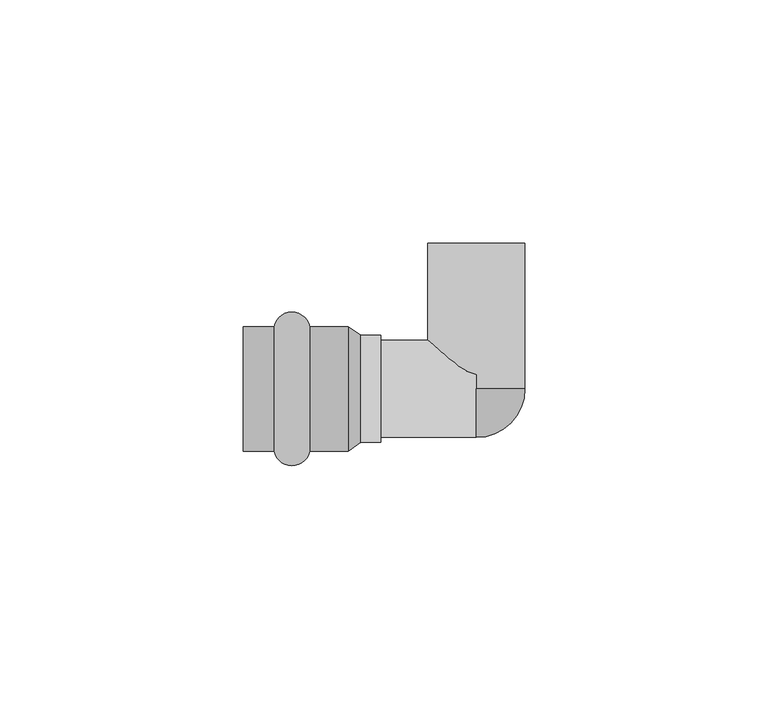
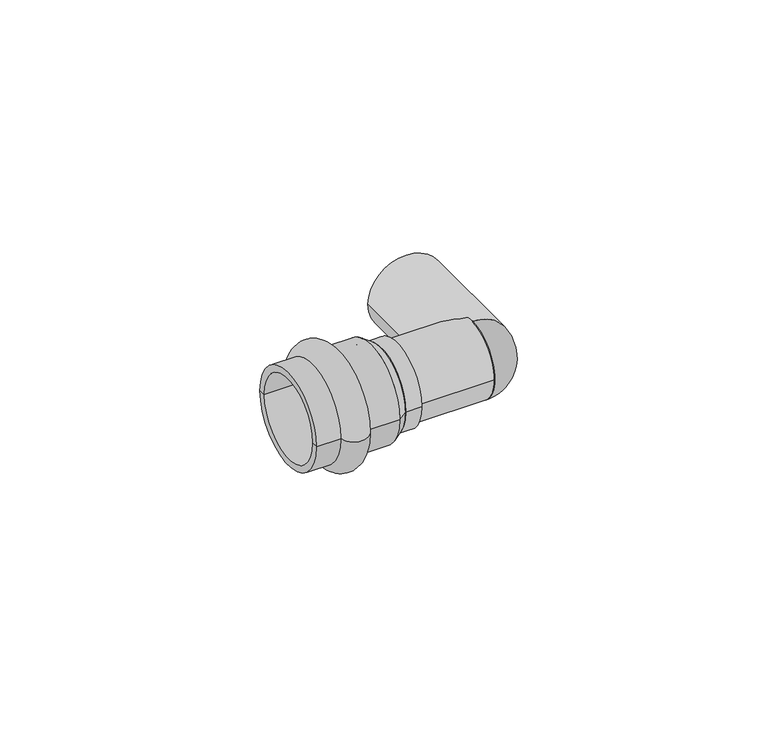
"""IFC4 building model written with IfcOpenShell, lengths in millimetres: pipe fitting geometry, VALTEC_VTi.952.I_Угольник с переходом на внутреннюю резьбу нержавеющая сталь : VTi.952.I."""

from ifc_helpers import new_model, si_unit, point, frame, origin, origin_2d, place, context, project, spatial, polyline, circle_curve, ellipse_curve, trimmed, segment, composite_curve, outline, extrude, source, transform, mapped, element, save
from ifc_brep_helpers import plane_surface, cylinder_surface, revolved_surface, advanced_brep


def pipe_fitting_2329c515(model_context):
    return source(origin(), model_context, "Body", "SolidModel", [
        advanced_brep(
        [(-41.6242346, -12.8, 0.0), (-41.6242346, 12.8, 0.0), (-34.2757654, 12.8, 0.0), (-34.2757654, -12.8, 0.0), (-48.0, -12.8, 0.0), (-48.0, 12.8, 0.0), (-48.0, -11.0, 0.0), (-48.0, 11.0, 0.0), (-26.4, -11.0, 0.0), (-26.4, 11.0, 0.0), (-26.4, -12.8, 0.0), (-26.4, 12.8, 0.0)],
        [
            (0, 1, circle_curve(frame((-41.6242346, 0.0, 0.0), z_axis=(1.0, 0.0, 0.0), x_axis=(0.0, 1.0, 0.0)), 12.8)),
            (1, 2, circle_curve(frame((-37.95, 12.05, 0.0), z_axis=(0.0, 0.0, -1.0), x_axis=(1.0, 0.0, 0.0)), 3.75)),
            (2, 3, circle_curve(frame((-34.2757654, 0.0, 0.0), z_axis=(-1.0, 0.0, 0.0), x_axis=(0.0, 1.0, 0.0)), 12.8)),
            (3, 0, circle_curve(frame((-37.95, -12.05, 0.0), z_axis=(0.0, 0.0, -1.0), x_axis=(1.0, 0.0, 0.0)), 3.75)),
            (1, 0, circle_curve(frame((-41.6242346, 0.0, 0.0), z_axis=(1.0, 0.0, 0.0), x_axis=(0.0, 1.0, 0.0)), 12.8)),
            (3, 2, circle_curve(frame((-34.2757654, 0.0, 0.0), z_axis=(-1.0, 0.0, 0.0), x_axis=(0.0, 1.0, 0.0)), 12.8)),
            (4, 5, circle_curve(frame((-48.0, 0.0, 0.0), z_axis=(1.0, 0.0, 0.0), x_axis=(0.0, 1.0, 0.0)), 12.8)),
            (5, 1),
            (0, 4),
            (5, 4, circle_curve(frame((-48.0, 0.0, 0.0), z_axis=(1.0, 0.0, 0.0), x_axis=(0.0, 1.0, 0.0)), 12.8)),
            (6, 7, circle_curve(frame((-48.0, 0.0, 0.0), z_axis=(1.0, 0.0, 0.0), x_axis=(0.0, 1.0, 0.0)), 11.0)),
            (7, 5),
            (4, 6),
            (7, 6, circle_curve(frame((-48.0, 0.0, 0.0), z_axis=(1.0, 0.0, 0.0), x_axis=(0.0, 1.0, 0.0)), 11.0)),
            (8, 9, circle_curve(frame((-26.4, 0.0, 0.0), z_axis=(1.0, 0.0, 0.0), x_axis=(0.0, 1.0, 0.0)), 11.0)),
            (9, 7),
            (6, 8),
            (9, 8, circle_curve(frame((-26.4, 0.0, 0.0), z_axis=(1.0, 0.0, 0.0), x_axis=(0.0, 1.0, 0.0)), 11.0)),
            (10, 11, circle_curve(frame((-26.4, 0.0, 0.0), z_axis=(1.0, 0.0, 0.0), x_axis=(0.0, 1.0, 0.0)), 12.8)),
            (11, 9),
            (8, 10),
            (11, 10, circle_curve(frame((-26.4, 0.0, 0.0), z_axis=(1.0, 0.0, 0.0), x_axis=(0.0, 1.0, 0.0)), 12.8)),
            (2, 11),
            (10, 3),
        ],
        [
            revolved_surface(trimmed(ellipse_curve(frame((-37.95, 12.05, 0.0), z_axis=(0.0, 0.0, 1.0), x_axis=(1.0, 0.0, 0.0)), 3.75, 3.75), [point((-34.2757654, 12.8, 0.0))], [point((-41.6242346, 12.8, 0.0))], True, "CARTESIAN"), (-51.5364426, 0.0, 0.0), (-1.0, 0.0, 0.0)),
            cylinder_surface(frame((-51.5364426, 0.0, 0.0), z_axis=(-1.0, 0.0, 0.0), x_axis=(0.0, 1.0, 0.0)), 12.8),
            plane_surface(frame((-48.0, 0.0, 0.0), z_axis=(-1.0, 0.0, 0.0), x_axis=(0.0, 1.0, 0.0))),
            revolved_surface(polyline([(-48.0, 11.0, 0.0), (-26.4, 11.0, 0.0)]), (-51.5364426, 0.0, 0.0), (-1.0, 0.0, 0.0)),
            plane_surface(frame((-26.4, 0.0, 0.0), z_axis=(1.0, 0.0, 0.0), x_axis=(0.0, 1.0, 0.0))),
        ],
        [
            (0, [[1, 2, 3, 4]]),
            (0, [[5, -4, 6, -2]]),
            (1, [[7, 8, -1, 9]]),
            (1, [[10, -9, -5, -8]]),
            (2, [[11, 12, -7, 13]]),
            (2, [[14, -13, -10, -12]]),
            (3, [[15, 16, -11, 17]]),
            (3, [[18, -17, -14, -16]]),
            (4, [[19, 20, -15, 21]]),
            (4, [[22, -21, -18, -20]]),
            (1, [[-3, 23, -19, 24]]),
            (1, [[-6, -24, -22, -23]]),
        ],
    ),
        advanced_brep(
        [(0.0, 0.0, -10.0), (0.0, 0.0, 10.0)],
        [
            (0, 1, circle_curve(frame((0.0, 0.0, 0.0), z_axis=(-1.0, 0.0, 0.0), x_axis=(0.0, -1.0, 0.0)), 10.0)),
            (1, 0),
            (1, 0, circle_curve(frame((0.0, 0.0, 0.0), z_axis=(0.0, 1.0, 0.0), x_axis=(1.0, 0.0, 0.0)), 10.0)),
        ],
        [
            plane_surface(frame((0.0, 0.0, 1.732782), z_axis=(-1.0, 0.0, 0.0), x_axis=(0.0, -1.0, 0.0))),
            plane_surface(frame((0.0, 0.0, 1.732782), z_axis=(0.0, 1.0, 0.0), x_axis=(1.0, 0.0, 0.0))),
            revolved_surface(trimmed(ellipse_curve(frame((0.0, 0.0, 0.0), z_axis=(-1.0, 0.0, 0.0), x_axis=(0.0, -1.0, 0.0)), 10.0, 10.0), [point((0.0, 0.0, -10.0))], [point((0.0, 0.0, 10.0))], True, "CARTESIAN"), (0.0, 0.0, 1.732782), (0.0, 0.0, 1.0)),
        ],
        [
            (0, [[1, 2]]),
            (1, [[3, -2]]),
            (2, [[-1, -3]]),
        ],
    ),
        extrude(outline(composite_curve([segment(trimmed(circle_curve(origin_2d(), 10.0), [point((-10.0, 0.0))], [point((10.0, 0.0))], False, "CARTESIAN"), True, "CONTINUOUS"), segment(trimmed(circle_curve(origin_2d(), 10.0), [point((10.0, 0.0))], [point((-10.0, 0.0))], False, "CARTESIAN"), True, "CONTINUOUS")], self_intersect=False)), frame((-19.6390217, 0.0, 0.0), z_axis=(1.0, 0.0, 0.0), x_axis=(0.0, 1.0, 0.0)), (0.0, 0.0, 1.0), 19.6390217),
        extrude(outline(composite_curve([segment(trimmed(circle_curve(origin_2d(), 10.0), [point((0.0, -10.0))], [point((0.0, 10.0))], False, "CARTESIAN"), True, "CONTINUOUS"), segment(trimmed(circle_curve(origin_2d(), 10.0), [point((0.0, 10.0))], [point((0.0, -10.0))], False, "CARTESIAN"), True, "CONTINUOUS")], self_intersect=False), holes=[composite_curve([segment(trimmed(circle_curve(origin_2d(), 7.5), [point((0.0, -7.5))], [point((0.0, 7.5))], True, "CARTESIAN"), True, "CONTINUOUS"), segment(trimmed(circle_curve(origin_2d(), 7.5), [point((0.0, 7.5))], [point((0.0, -7.5))], True, "CARTESIAN"), True, "CONTINUOUS")], self_intersect=False)]), frame((0.0, 0.0, 0.0), z_axis=(0.0, 1.0, 0.0), x_axis=(0.0, 0.0, 1.0)), (0.0, 0.0, 1.0), 30.0),
        extrude(outline(composite_curve([segment(trimmed(circle_curve(origin_2d(), 11.0), [point((-11.0, 0.0))], [point((11.0, 0.0))], False, "CARTESIAN"), True, "CONTINUOUS"), segment(trimmed(circle_curve(origin_2d(), 11.0), [point((11.0, 0.0))], [point((-11.0, 0.0))], False, "CARTESIAN"), True, "CONTINUOUS")], self_intersect=False)), frame((-23.76, 0.0, 0.0), z_axis=(1.0, 0.0, 0.0), x_axis=(0.0, 1.0, 0.0)), (0.0, 0.0, 1.0), 4.1209783),
        advanced_brep(
        [(-26.4, -12.8, 0.0), (-26.4, 12.8, 0.0), (-23.76, -11.0, 0.0), (-23.76, 11.0, 0.0)],
        [
            (0, 1, circle_curve(frame((-26.4, 0.0, 0.0), z_axis=(-1.0, 0.0, 0.0), x_axis=(0.0, -1.0, 0.0)), 12.8)),
            (1, 0, circle_curve(frame((-26.4, 0.0, 0.0), z_axis=(-1.0, 0.0, 0.0), x_axis=(0.0, 1.0, 0.0)), 12.8)),
            (2, 3, circle_curve(frame((-23.76, 0.0, 0.0), z_axis=(1.0, 0.0, 0.0), x_axis=(0.0, 1.0, 0.0)), 11.0)),
            (3, 2, circle_curve(frame((-23.76, 0.0, 0.0), z_axis=(1.0, 0.0, 0.0), x_axis=(0.0, -1.0, 0.0)), 11.0)),
            (2, 0),
            (1, 3),
        ],
        [
            plane_surface(frame((-26.4, 0.0, 0.0), z_axis=(-1.0, 0.0, 0.0), x_axis=(0.0, 0.0, -1.0))),
            plane_surface(frame((-23.76, 0.0, 0.0), z_axis=(1.0, 0.0, 0.0), x_axis=(0.0, 0.0, -1.0))),
            revolved_surface(polyline([(-23.76, -10.999999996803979, 0.0), (-26.4, -12.8, 0.0)]), (-7.6266667, 0.0, 0.0), (-1.0, 0.0, 0.0)),
            revolved_surface(polyline([(-23.76, 10.999999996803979, 0.0), (-26.4, 12.8, 0.0)]), (-7.6266667, 0.0, 0.0), (-1.0, 0.0, 0.0)),
        ],
        [
            (0, [[1, 2]]),
            (1, [[3, 4]]),
            (2, [[-3, 5, -2, 6]]),
            (3, [[-4, -6, -1, -5]]),
        ],
    ),
    ])


if __name__ == "__main__":
    model = new_model("IFC4")
    model_context = context("Model", 3, world=origin())
    ifc_project = project(units=[si_unit("LENGTHUNIT", "METRE", prefix="MILLI")], contexts=[model_context])
    site = spatial("IfcSite", under=ifc_project)
    building = spatial("IfcBuilding", under=site)
    placement = place(None, origin())
    pipe_fitting_shape = pipe_fitting_2329c515(model_context)
    element("IfcPipeFitting", 1, ObjectType="VALTEC_VTi.952.I_Угольник с переходом на внутреннюю резьбу нержавеющая сталь : VTi.952.I", at=placement, inside=building, context=model_context, shape_type="MappedRepresentation", body=[
        mapped(pipe_fitting_shape, transform((0.0, 0.0, 0.0), x_axis=(1.0, 0.0, 0.0), y_axis=(0.0, 1.0, 0.0), z_axis=(0.0, 0.0, 1.0))),
    ])
    save(model, "model.ifc")
